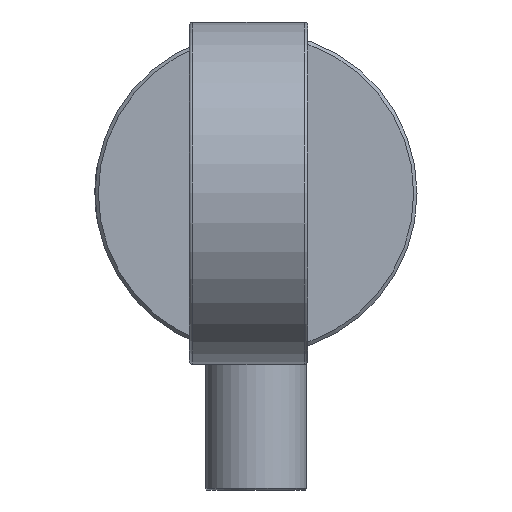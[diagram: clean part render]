
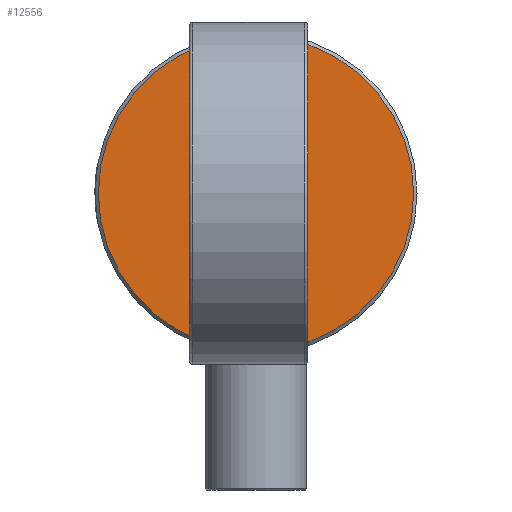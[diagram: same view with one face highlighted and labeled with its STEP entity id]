
A CAD part, front view. The second image highlights one B-rep face of the part: STEP entity #12556.
In plain terms, the highlighted planar face has unit normal (0, -1, 0).
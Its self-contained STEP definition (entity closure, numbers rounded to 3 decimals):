
#1449=PLANE('',#13478);
#1722=FACE_OUTER_BOUND('',#2479,.T.);
#2479=EDGE_LOOP('',(#8693));
#5084=CIRCLE('',#13477,46.5);
#5351=VERTEX_POINT('',#16573);
#6667=EDGE_CURVE('',#5351,#5351,#5084,.T.);
#8693=ORIENTED_EDGE('',*,*,#6667,.F.);
#12556=ADVANCED_FACE('',(#1722),#1449,.T.);
#13477=AXIS2_PLACEMENT_3D('',#16575,#14309,#14310);
#13478=AXIS2_PLACEMENT_3D('',#16576,#14311,#14312);
#14309=DIRECTION('center_axis',(0.,1.,0.));
#14310=DIRECTION('ref_axis',(0.,0.,-1.));
#14311=DIRECTION('center_axis',(0.,-1.,0.));
#14312=DIRECTION('ref_axis',(0.,0.,-1.));
#16573=CARTESIAN_POINT('',(0.,0.,46.5));
#16575=CARTESIAN_POINT('Origin',(0.,0.,0.));
#16576=CARTESIAN_POINT('Origin',(0.,0.,47.5));
